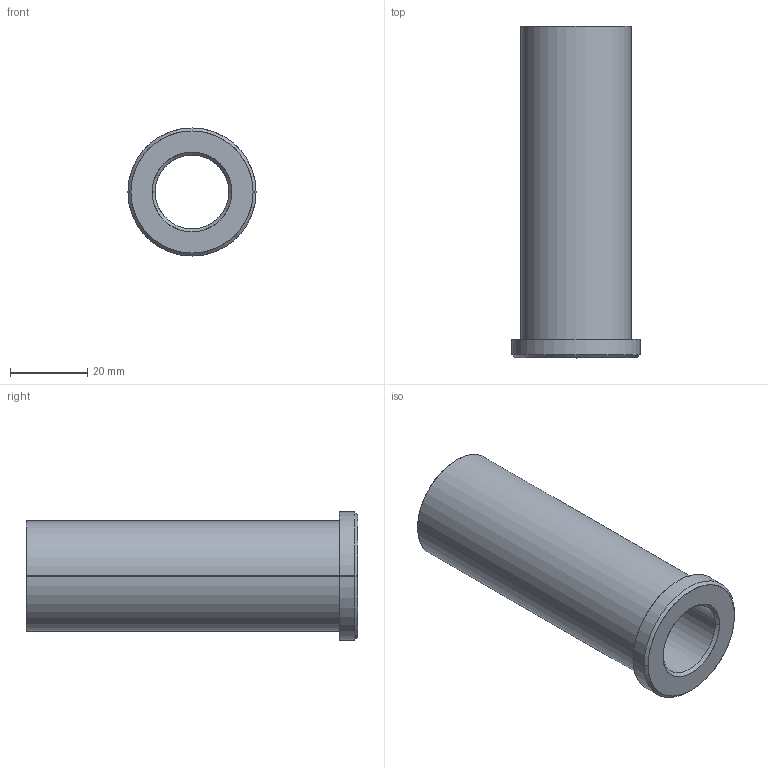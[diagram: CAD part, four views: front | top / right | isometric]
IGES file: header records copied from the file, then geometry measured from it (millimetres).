
Start section: SolidWorks IGES file using analytic representation for surfaces
Global section: file name: C:\Users\Ryan\Documents\PCS\Shoulder Bushings - Bronze Plated\LBB 06-33.igs; native system: SolidWorks 2009; preprocessor: SolidWorks 2009; author: Ryan; date: 140913.211559; units: inch
Bounding box: 33.07 x 85.72 x 33.07 mm (x, y, z)
Surface area: 13935.8 mm2 (no closed solid volume)
Topology: 0 solids, 0 shells, 15 faces, 368 edges, 368 vertices
Faces by surface type: revolution 10, bspline 5
